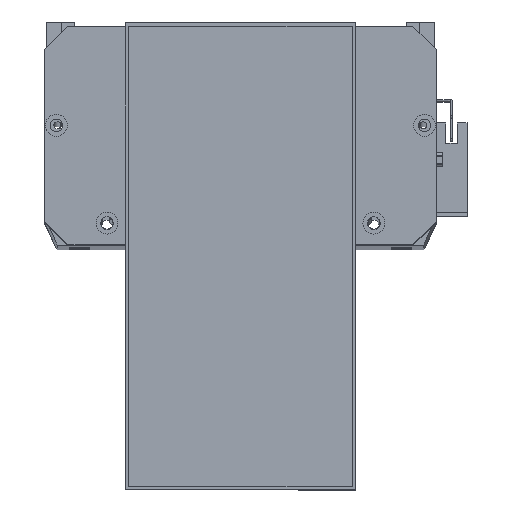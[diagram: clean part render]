
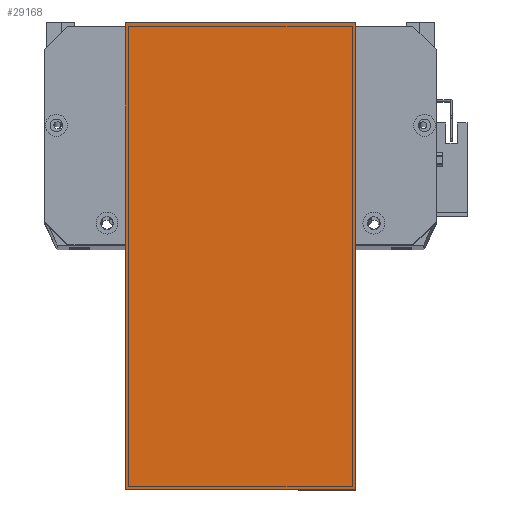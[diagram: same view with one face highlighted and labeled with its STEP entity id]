
A CAD part, top view. The second image highlights one B-rep face of the part: STEP entity #29168.
In plain terms, the highlighted planar face has unit normal (0, 0, 1) as drawn and (0, 0, -1) by its records, which use the part's own axes.
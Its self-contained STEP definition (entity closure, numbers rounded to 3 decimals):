
#453 = LINE ( 'NONE', #2812, #23008 ) ;
#497 = PLANE ( 'NONE',  #4348 ) ;
#2544 = DIRECTION ( 'NONE',  ( 0., 1., 0. ) ) ;
#2616 = DIRECTION ( 'NONE',  ( 1., 0., 0. ) ) ;
#2757 = DIRECTION ( 'NONE',  ( 0., 0., -1. ) ) ;
#2812 = CARTESIAN_POINT ( 'NONE',  ( 0., 0., 0. ) ) ;
#3433 = CARTESIAN_POINT ( 'NONE',  ( 0., 19.5, 0. ) ) ;
#4348 = AXIS2_PLACEMENT_3D ( 'NONE', #27553, #2757, #18503 ) ;
#5089 = DIRECTION ( 'NONE',  ( 0., -1., 0. ) ) ;
#7898 = CARTESIAN_POINT ( 'NONE',  ( -12., 19.5, 0. ) ) ;
#8764 = ORIENTED_EDGE ( 'NONE', *, *, #10267, .F. ) ;
#9250 = FACE_OUTER_BOUND ( 'NONE', #27837, .T. ) ;
#9544 = ORIENTED_EDGE ( 'NONE', *, *, #20980, .F. ) ;
#10267 = EDGE_CURVE ( 'NONE', #21076, #19935, #453, .T. ) ;
#11659 = ORIENTED_EDGE ( 'NONE', *, *, #16656, .F. ) ;
#12438 = DIRECTION ( 'NONE',  ( 1., 0., 0. ) ) ;
#14058 = LINE ( 'NONE', #27462, #25368 ) ;
#16656 = EDGE_CURVE ( 'NONE', #19935, #23277, #19988, .T. ) ;
#18503 = DIRECTION ( 'NONE',  ( -1., 0., 0. ) ) ;
#18564 = ORIENTED_EDGE ( 'NONE', *, *, #21535, .T. ) ;
#19321 = LINE ( 'NONE', #25099, #23214 ) ;
#19935 = VERTEX_POINT ( 'NONE', #3433 ) ;
#19988 = LINE ( 'NONE', #7898, #24589 ) ;
#20889 = CARTESIAN_POINT ( 'NONE',  ( 0., 119.5, 0. ) ) ;
#20980 = EDGE_CURVE ( 'NONE', #23277, #25533, #14058, .T. ) ;
#21076 = VERTEX_POINT ( 'NONE', #20889 ) ;
#21535 = EDGE_CURVE ( 'NONE', #21076, #25533, #19321, .T. ) ;
#23008 = VECTOR ( 'NONE', #5089, 1000. ) ;
#23214 = VECTOR ( 'NONE', #2616, 1000. ) ;
#23277 = VERTEX_POINT ( 'NONE', #26472 ) ;
#23314 = CARTESIAN_POINT ( 'NONE',  ( 203., 119.5, 0. ) ) ;
#24589 = VECTOR ( 'NONE', #12438, 1000. ) ;
#25099 = CARTESIAN_POINT ( 'NONE',  ( -12., 119.5, 0. ) ) ;
#25368 = VECTOR ( 'NONE', #2544, 1000. ) ;
#25533 = VERTEX_POINT ( 'NONE', #23314 ) ;
#26472 = CARTESIAN_POINT ( 'NONE',  ( 203., 19.5, 0. ) ) ;
#27462 = CARTESIAN_POINT ( 'NONE',  ( 203., 0., 0. ) ) ;
#27553 = CARTESIAN_POINT ( 'NONE',  ( 0., 0., 0. ) ) ;
#27837 = EDGE_LOOP ( 'NONE', ( #11659, #8764, #18564, #9544 ) ) ;
#29168 = ADVANCED_FACE ( 'NONE', ( #9250 ), #497, .T. ) ;
